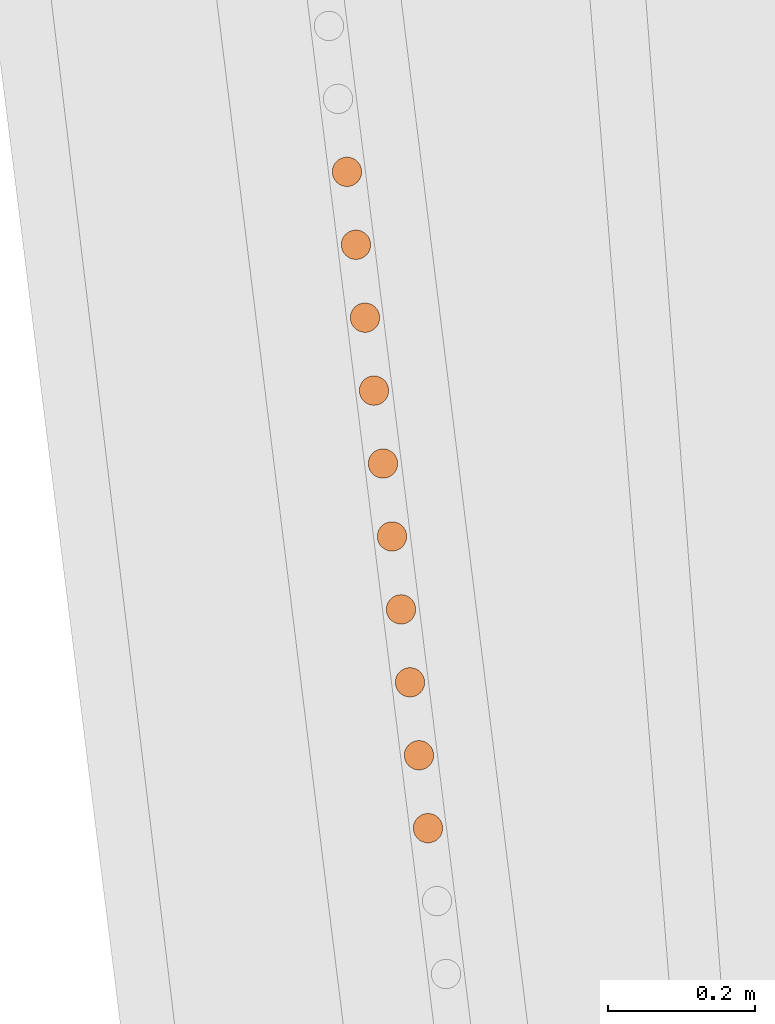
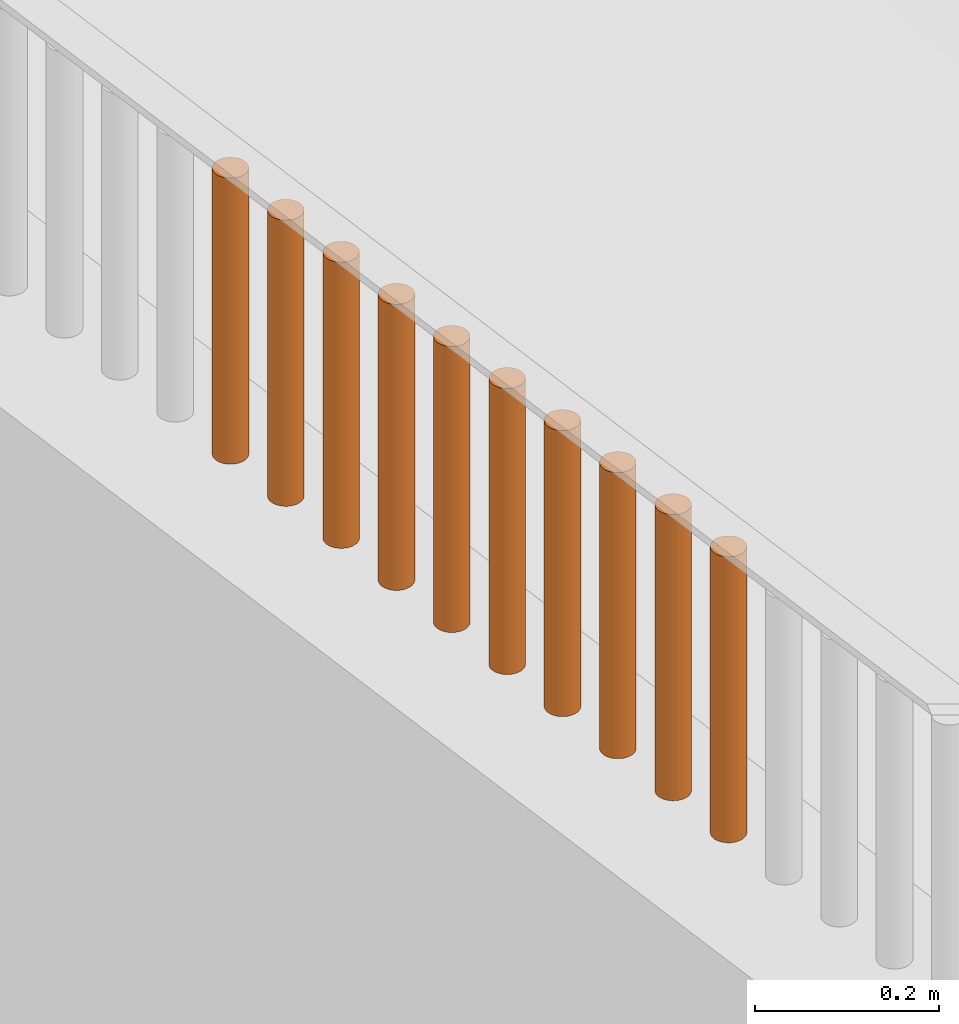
# One storey, part 116 of 1809: 10 proxies, 1 element without a shape of its own.
"""IFC2X3 building model written with IfcOpenShell, lengths in millimetres."""

from ifc_helpers import new_model, entity, si_unit, converted_unit, derived_unit, money_unit, direction, frame, origin_with_axes, place, context, subcontext, project, spatial, faceted_brep, source, transform, mapped, material, type_object, element, aggregate, save


model = new_model("IFC2X3")

# Units and contexts
model_context = context("Model", 3, precision=0.01, world=origin_with_axes(), true_north=direction((0.0, 1.0)))
body_context = subcontext(model_context, "Body", "Model", "MODEL_VIEW")
ifc_project = project(units=[si_unit("LENGTHUNIT", "METRE", prefix="MILLI"), si_unit("AREAUNIT", "SQUARE_METRE"), si_unit("VOLUMEUNIT", "CUBIC_METRE"), converted_unit("PLANEANGLEUNIT", "DEGREE", entity("IfcPlaneAngleMeasure", 0.0174532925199), si_unit("PLANEANGLEUNIT", "RADIAN"), dimensions=[0, 0, 0, 0, 0, 0, 0]), si_unit("SOLIDANGLEUNIT", "STERADIAN"), money_unit("EUR"), converted_unit("TIMEUNIT", "Year", entity("IfcTimeMeasure", 31556926.0), si_unit("TIMEUNIT", "SECOND"), dimensions=[0, 0, 1, 0, 0, 0, 0]), si_unit("MASSUNIT", "GRAM", prefix="KILO"), si_unit("THERMODYNAMICTEMPERATUREUNIT", "DEGREE_CELSIUS"), si_unit("LUMINOUSINTENSITYUNIT", "LUMEN"), si_unit("ENERGYUNIT", "JOULE", prefix="MEGA"), derived_unit("THERMALCONDUCTANCEUNIT", [(si_unit("POWERUNIT", "WATT"), 1), (si_unit("LENGTHUNIT", "METRE"), -1), (si_unit("THERMODYNAMICTEMPERATUREUNIT", "KELVIN"), -1)]), derived_unit("SPECIFICHEATCAPACITYUNIT", [(si_unit("ENERGYUNIT", "JOULE"), 1), (si_unit("MASSUNIT", "GRAM", prefix="KILO"), -1), (si_unit("THERMODYNAMICTEMPERATUREUNIT", "KELVIN"), -1)]), derived_unit("MASSDENSITYUNIT", [(si_unit("MASSUNIT", "GRAM", prefix="KILO"), 1), (si_unit("VOLUMEUNIT", "CUBIC_METRE"), -1)])], contexts=[model_context])

# Site, building, storey
site_placement = place(None, origin_with_axes())
site = spatial("IfcSite", under=ifc_project, at=site_placement, Name="Politse- ja Piirivalveameti ning Päästeameti ühishoone", CompositionType="ELEMENT")
building_placement = place(site_placement, origin_with_axes())
building = spatial("IfcBuilding", under=site, at=building_placement, Name="Politse- ja Piirivalveameti ning Päästeameti ühishoone", CompositionType="ELEMENT")
storey_placement = place(building_placement, origin_with_axes())
storey = spatial("IfcBuildingStorey", under=building, at=storey_placement, Name="Esimene korrus", CompositionType="ELEMENT", Elevation=0.0)

# Proxies
building_element_proxy_type_1 = type_object("IfcBuildingElementProxyType", Name="Railing Type", PredefinedType="NOTDEFINED")
proxy_1_placement = place(storey_placement, frame((-18956.5522504, -53688.4757966, 2100.0), z_axis=(0.0, 0.0, 1.0), x_axis=(1.0, 0.0, 0.0)))
proxy_1 = element("IfcBuildingElementProxy", 1, at=proxy_1_placement, inside=storey, type_object=building_element_proxy_type_1, Name="PIIRDEAED")
ifc_material = material(Name="ET-06_Teras - Konstruktsioon")
building_element_proxy_type_2 = type_object("IfcBuildingElementProxyType", Name="IfcBuildingElementProxy", PredefinedType="NOTDEFINED")
shared_shape_1 = source(origin_with_axes(), body_context, "Body", "Brep", [
    faceted_brep([(0.0, -20.0, 0.0), (3.47296355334, -19.6961550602, 0.0), (3.47296355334, -19.6961550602, 380.000012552), (0.0, -20.0, 380.000012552), (-3.47296355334, -19.6961550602, 0.0), (-6.84040286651, -18.7938524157, 0.0), (-10.0, -17.3205080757, 0.0), (-12.8557521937, -15.3208888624, 0.0), (-15.3208888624, -12.8557521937, 0.0), (-17.3205080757, -10.0, 0.0), (-18.7938524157, -6.84040286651, 0.0), (-19.6961550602, -3.47296355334, 0.0), (-20.0, 0.0, 0.0), (-19.6961550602, 3.47296355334, 0.0), (-18.7938524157, 6.84040286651, 0.0), (-17.3205080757, 10.0, 0.0), (-15.3208888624, 12.8557521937, 0.0), (-12.8557521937, 15.3208888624, 0.0), (-10.0, 17.3205080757, 0.0), (-6.84040286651, 18.7938524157, 0.0), (-3.47296355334, 19.6961550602, 0.0), (0.0, 20.0, 0.0), (3.47296355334, 19.6961550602, 0.0), (6.84040286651, 18.7938524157, 0.0), (10.0, 17.3205080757, 0.0), (12.8557521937, 15.3208888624, 0.0), (15.3208888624, 12.8557521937, 0.0), (17.3205080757, 10.0, 0.0), (18.7938524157, 6.84040286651, 0.0), (19.6961550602, 3.47296355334, 0.0), (20.0, 0.0, 0.0), (19.6961550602, -3.47296355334, 0.0), (18.7938524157, -6.84040286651, 0.0), (17.3205080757, -10.0, 0.0), (15.3208888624, -12.8557521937, 0.0), (12.8557521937, -15.3208888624, 0.0), (10.0, -17.3205080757, 0.0), (6.84040286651, -18.7938524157, 0.0), (6.84040286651, -18.7938524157, 380.000012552), (10.0, -17.3205080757, 380.000012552), (12.8557521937, -15.3208888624, 380.000012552), (15.3208888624, -12.8557521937, 380.000012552), (17.3205080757, -10.0, 380.000012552), (18.7938524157, -6.84040286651, 380.000012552), (19.6961550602, -3.47296355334, 380.000012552), (20.0, 0.0, 380.000012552), (19.6961550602, 3.47296355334, 380.000012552), (18.7938524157, 6.84040286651, 380.000012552), (17.3205080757, 10.0, 380.000012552), (15.3208888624, 12.8557521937, 380.000012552), (12.8557521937, 15.3208888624, 380.000012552), (10.0, 17.3205080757, 380.000012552), (6.84040286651, 18.7938524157, 380.000012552), (3.47296355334, 19.6961550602, 380.000012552), (0.0, 20.0, 380.000012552), (-3.47296355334, 19.6961550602, 380.000012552), (-6.84040286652, 18.7938524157, 380.000012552), (-10.0, 17.3205080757, 380.000012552), (-12.8557521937, 15.3208888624, 380.000012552), (-15.3208888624, 12.8557521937, 380.000012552), (-17.3205080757, 10.0, 380.000012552), (-18.7938524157, 6.84040286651, 380.000012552), (-19.6961550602, 3.47296355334, 380.000012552), (-20.0, 0.0, 380.000012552), (-19.6961550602, -3.47296355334, 380.000012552), (-18.7938524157, -6.84040286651, 380.000012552), (-17.3205080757, -10.0, 380.000012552), (-15.3208888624, -12.8557521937, 380.000012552), (-12.8557521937, -15.3208888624, 380.000012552), (-10.0, -17.3205080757, 380.000012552), (-6.84040286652, -18.7938524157, 380.000012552), (-3.47296355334, -19.6961550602, 380.000012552)], [[[0, 1, 2, 3]], [[0, 4, 5, 6, 7, 8, 9, 10, 11, 12, 13, 14, 15, 16, 17, 18, 19, 20, 21, 22, 23, 24, 25, 26, 27, 28, 29, 30, 31, 32, 33, 34, 35, 36, 37, 1]], [[1, 37, 38, 2]], [[3, 2, 38, 39, 40, 41, 42, 43, 44, 45, 46, 47, 48, 49, 50, 51, 52, 53, 54, 55, 56, 57, 58, 59, 60, 61, 62, 63, 64, 65, 66, 67, 68, 69, 70, 71]], [[4, 0, 3, 71]], [[5, 4, 71, 70]], [[6, 5, 70, 69]], [[7, 6, 69, 68]], [[8, 7, 68, 67]], [[9, 8, 67, 66]], [[10, 9, 66, 65]], [[11, 10, 65, 64]], [[12, 11, 64, 63]], [[13, 12, 63, 62]], [[14, 13, 62, 61]], [[15, 14, 61, 60]], [[16, 15, 60, 59]], [[17, 16, 59, 58]], [[18, 17, 58, 57]], [[19, 18, 57, 56]], [[20, 19, 56, 55]], [[21, 20, 55, 54]], [[22, 21, 54, 53]], [[23, 22, 53, 52]], [[24, 23, 52, 51]], [[25, 24, 51, 50]], [[26, 25, 50, 49]], [[27, 26, 49, 48]], [[28, 27, 48, 47]], [[29, 28, 47, 46]], [[30, 29, 46, 45]], [[31, 30, 45, 44]], [[32, 31, 44, 43]], [[33, 32, 43, 42]], [[34, 33, 42, 41]], [[35, 34, 41, 40]], [[36, 35, 40, 39]], [[37, 36, 39, 38]]]),
])
proxy_2_placement = place(proxy_1_placement, frame((-2211.8757927, 17085.5383817, -1.25517001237e-05), z_axis=(0.0, 0.0, 1.0), x_axis=(1.0, 0.0, 0.0)))
proxy_2 = element("IfcBuildingElementProxy", 2, at=proxy_2_placement, type_object=building_element_proxy_type_2, material=ifc_material, Name="BALUSTER - 001", context=body_context, shape_type="MappedRepresentation", body=[
    mapped(shared_shape_1, transform((0.0, 0.0, 0.0), x_axis=(0.992468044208, 0.122503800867, 0.0), y_axis=(-0.122503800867, 0.992468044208, 0.0), z_axis=(0.0, 0.0, 1.0))),
])
proxy_3_placement = place(proxy_1_placement, frame((-2285.36202218, 17680.8891703, -1.25517001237e-05), z_axis=(0.0, 0.0, 1.0), x_axis=(1.0, 0.0, 0.0)))
proxy_3 = element("IfcBuildingElementProxy", 3, at=proxy_3_placement, type_object=building_element_proxy_type_2, material=ifc_material, Name="BALUSTER - 001", context=body_context, shape_type="MappedRepresentation", body=[
    mapped(shared_shape_1, transform((0.0, 0.0, 0.0), x_axis=(0.992468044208, 0.122503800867, 0.0), y_axis=(-0.122503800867, 0.992468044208, 0.0), z_axis=(0.0, 0.0, 1.0))),
])
proxy_4_placement = place(proxy_1_placement, frame((-2297.60972709, 17780.1143017, -1.25517001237e-05), z_axis=(0.0, 0.0, 1.0), x_axis=(1.0, 0.0, 0.0)))
proxy_4 = element("IfcBuildingElementProxy", 4, at=proxy_4_placement, type_object=building_element_proxy_type_2, material=ifc_material, Name="BALUSTER - 001", context=body_context, shape_type="MappedRepresentation", body=[
    mapped(shared_shape_1, transform((0.0, 0.0, 0.0), x_axis=(0.992468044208, 0.122503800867, 0.0), y_axis=(-0.122503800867, 0.992468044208, 0.0), z_axis=(0.0, 0.0, 1.0))),
])
shared_shape_2 = source(origin_with_axes(), body_context, "Body", "Brep", [
    faceted_brep([(0.0, -20.0, 0.0), (3.47296355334, -19.6961550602, 0.0), (3.47296355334, -19.6961550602, 380.000012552), (0.0, -20.0, 380.000012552), (-3.47296355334, -19.6961550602, 0.0), (-6.84040286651, -18.7938524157, 0.0), (-10.0, -17.3205080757, 0.0), (-12.8557521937, -15.3208888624, 0.0), (-15.3208888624, -12.8557521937, 0.0), (-17.3205080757, -10.0, 0.0), (-18.7938524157, -6.84040286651, 0.0), (-19.6961550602, -3.47296355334, 0.0), (-20.0, 0.0, 0.0), (-19.6961550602, 3.47296355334, 0.0), (-18.7938524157, 6.84040286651, 0.0), (-17.3205080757, 10.0, 0.0), (-15.3208888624, 12.8557521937, 0.0), (-12.8557521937, 15.3208888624, 0.0), (-10.0, 17.3205080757, 0.0), (-6.84040286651, 18.7938524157, 0.0), (-3.47296355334, 19.6961550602, 0.0), (0.0, 20.0, 0.0), (3.47296355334, 19.6961550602, 0.0), (6.84040286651, 18.7938524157, 0.0), (10.0, 17.3205080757, 0.0), (12.8557521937, 15.3208888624, 0.0), (15.3208888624, 12.8557521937, 0.0), (17.3205080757, 10.0, 0.0), (18.7938524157, 6.84040286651, 0.0), (19.6961550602, 3.47296355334, 0.0), (20.0, 0.0, 0.0), (19.6961550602, -3.47296355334, 0.0), (18.7938524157, -6.84040286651, 0.0), (17.3205080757, -10.0, 0.0), (15.3208888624, -12.8557521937, 0.0), (12.8557521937, -15.3208888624, 0.0), (10.0, -17.3205080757, 0.0), (6.84040286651, -18.7938524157, 0.0), (6.84040286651, -18.7938524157, 380.000012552), (10.0, -17.3205080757, 380.000012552), (12.8557521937, -15.3208888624, 380.000012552), (15.3208888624, -12.8557521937, 380.000012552), (17.3205080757, -9.99999999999, 380.000012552), (18.7938524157, -6.84040286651, 380.000012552), (19.6961550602, -3.47296355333, 380.000012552), (20.0, 0.0, 380.000012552), (19.6961550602, 3.47296355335, 380.000012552), (18.7938524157, 6.84040286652, 380.000012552), (17.3205080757, 10.0, 380.000012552), (15.3208888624, 12.8557521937, 380.000012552), (12.8557521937, 15.3208888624, 380.000012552), (10.0, 17.3205080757, 380.000012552), (6.84040286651, 18.7938524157, 380.000012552), (3.47296355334, 19.6961550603, 380.000012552), (0.0, 20.0, 380.000012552), (-3.47296355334, 19.6961550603, 380.000012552), (-6.84040286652, 18.7938524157, 380.000012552), (-10.0, 17.3205080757, 380.000012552), (-12.8557521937, 15.3208888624, 380.000012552), (-15.3208888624, 12.8557521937, 380.000012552), (-17.3205080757, 10.0, 380.000012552), (-18.7938524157, 6.84040286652, 380.000012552), (-19.6961550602, 3.47296355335, 380.000012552), (-20.0, 0.0, 380.000012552), (-19.6961550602, -3.47296355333, 380.000012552), (-18.7938524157, -6.84040286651, 380.000012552), (-17.3205080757, -9.99999999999, 380.000012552), (-15.3208888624, -12.8557521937, 380.000012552), (-12.8557521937, -15.3208888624, 380.000012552), (-10.0, -17.3205080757, 380.000012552), (-6.84040286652, -18.7938524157, 380.000012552), (-3.47296355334, -19.6961550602, 380.000012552)], [[[0, 1, 2, 3]], [[0, 4, 5, 6, 7, 8, 9, 10, 11, 12, 13, 14, 15, 16, 17, 18, 19, 20, 21, 22, 23, 24, 25, 26, 27, 28, 29, 30, 31, 32, 33, 34, 35, 36, 37, 1]], [[1, 37, 38, 2]], [[3, 2, 38, 39, 40, 41, 42, 43, 44, 45, 46, 47, 48, 49, 50, 51, 52, 53, 54, 55, 56, 57, 58, 59, 60, 61, 62, 63, 64, 65, 66, 67, 68, 69, 70, 71]], [[4, 0, 3, 71]], [[5, 4, 71, 70]], [[6, 5, 70, 69]], [[7, 6, 69, 68]], [[8, 7, 68, 67]], [[9, 8, 67, 66]], [[10, 9, 66, 65]], [[11, 10, 65, 64]], [[12, 11, 64, 63]], [[13, 12, 63, 62]], [[14, 13, 62, 61]], [[15, 14, 61, 60]], [[16, 15, 60, 59]], [[17, 16, 59, 58]], [[18, 17, 58, 57]], [[19, 18, 57, 56]], [[20, 19, 56, 55]], [[21, 20, 55, 54]], [[22, 21, 54, 53]], [[23, 22, 53, 52]], [[24, 23, 52, 51]], [[25, 24, 51, 50]], [[26, 25, 50, 49]], [[27, 26, 49, 48]], [[28, 27, 48, 47]], [[29, 28, 47, 46]], [[30, 29, 46, 45]], [[31, 30, 45, 44]], [[32, 31, 44, 43]], [[33, 32, 43, 42]], [[34, 33, 42, 41]], [[35, 34, 41, 40]], [[36, 35, 40, 39]], [[37, 36, 39, 38]]]),
])
proxy_5_placement = place(proxy_1_placement, frame((-2273.11431727, 17581.6640389, -1.25517001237e-05), z_axis=(0.0, 0.0, 1.0), x_axis=(1.0, 0.0, 0.0)))
proxy_5 = element("IfcBuildingElementProxy", 5, at=proxy_5_placement, type_object=building_element_proxy_type_2, material=ifc_material, Name="BALUSTER - 001", context=body_context, shape_type="MappedRepresentation", body=[
    mapped(shared_shape_2, transform((0.0, 0.0, 0.0), x_axis=(0.992468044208, 0.122503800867, 0.0), y_axis=(-0.122503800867, 0.992468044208, 0.0), z_axis=(0.0, 0.0, 1.0))),
])
shared_shape_3 = source(origin_with_axes(), body_context, "Body", "Brep", [
    faceted_brep([(0.0, -20.0, 0.0), (3.47296355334, -19.6961550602, 0.0), (3.47296355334, -19.6961550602, 380.000012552), (0.0, -20.0, 380.000012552), (-3.47296355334, -19.6961550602, 0.0), (-6.84040286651, -18.7938524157, 0.0), (-10.0, -17.3205080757, 0.0), (-12.8557521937, -15.3208888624, 0.0), (-15.3208888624, -12.8557521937, 0.0), (-17.3205080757, -10.0, 0.0), (-18.7938524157, -6.84040286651, 0.0), (-19.6961550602, -3.47296355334, 0.0), (-20.0, 0.0, 0.0), (-19.6961550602, 3.47296355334, 0.0), (-18.7938524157, 6.84040286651, 0.0), (-17.3205080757, 10.0, 0.0), (-15.3208888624, 12.8557521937, 0.0), (-12.8557521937, 15.3208888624, 0.0), (-10.0, 17.3205080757, 0.0), (-6.84040286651, 18.7938524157, 0.0), (-3.47296355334, 19.6961550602, 0.0), (0.0, 20.0, 0.0), (3.47296355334, 19.6961550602, 0.0), (6.84040286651, 18.7938524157, 0.0), (10.0, 17.3205080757, 0.0), (12.8557521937, 15.3208888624, 0.0), (15.3208888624, 12.8557521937, 0.0), (17.3205080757, 10.0, 0.0), (18.7938524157, 6.84040286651, 0.0), (19.6961550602, 3.47296355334, 0.0), (20.0, 0.0, 0.0), (19.6961550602, -3.47296355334, 0.0), (18.7938524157, -6.84040286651, 0.0), (17.3205080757, -10.0, 0.0), (15.3208888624, -12.8557521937, 0.0), (12.8557521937, -15.3208888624, 0.0), (10.0, -17.3205080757, 0.0), (6.84040286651, -18.7938524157, 0.0), (6.84040286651, -18.7938524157, 380.000012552), (10.0, -17.3205080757, 380.000012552), (12.8557521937, -15.3208888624, 380.000012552), (15.3208888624, -12.8557521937, 380.000012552), (17.3205080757, -10.0, 380.000012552), (18.7938524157, -6.84040286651, 380.000012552), (19.6961550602, -3.47296355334, 380.000012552), (20.0, 0.0, 380.000012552), (19.6961550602, 3.47296355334, 380.000012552), (18.7938524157, 6.84040286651, 380.000012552), (17.3205080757, 10.0, 380.000012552), (15.3208888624, 12.8557521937, 380.000012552), (12.8557521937, 15.3208888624, 380.000012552), (10.0, 17.3205080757, 380.000012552), (6.84040286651, 18.7938524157, 380.000012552), (3.47296355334, 19.6961550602, 380.000012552), (0.0, 20.0, 380.000012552), (-3.47296355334, 19.6961550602, 380.000012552), (-6.84040286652, 18.7938524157, 380.000012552), (-10.0, 17.3205080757, 380.000012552), (-12.8557521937, 15.3208888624, 380.000012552), (-15.3208888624, 12.8557521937, 380.000012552), (-17.3205080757, 10.0, 380.000012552), (-18.7938524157, 6.84040286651, 380.000012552), (-19.6961550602, 3.47296355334, 380.000012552), (-20.0, 0.0, 380.000012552), (-19.6961550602, -3.47296355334, 380.000012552), (-18.7938524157, -6.84040286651, 380.000012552), (-17.3205080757, -10.0, 380.000012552), (-15.3208888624, -12.8557521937, 380.000012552), (-12.8557521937, -15.3208888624, 380.000012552), (-10.0, -17.3205080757, 380.000012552), (-6.84040286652, -18.7938524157, 380.000012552), (-3.47296355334, -19.6961550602, 380.000012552)], [[[0, 1, 2, 3]], [[0, 4, 5, 6, 7, 8, 9, 10, 11, 12, 13, 14, 15, 16, 17, 18, 19, 20, 21, 22, 23, 24, 25, 26, 27, 28, 29, 30, 31, 32, 33, 34, 35, 36, 37, 1]], [[1, 37, 38, 2]], [[3, 2, 38, 39, 40, 41, 42, 43, 44, 45, 46, 47, 48, 49, 50, 51, 52, 53, 54, 55, 56, 57, 58, 59, 60, 61, 62, 63, 64, 65, 66, 67, 68, 69, 70, 71]], [[4, 0, 3, 71]], [[5, 4, 71, 70]], [[6, 5, 70, 69]], [[7, 6, 69, 68]], [[8, 7, 68, 67]], [[9, 8, 67, 66]], [[10, 9, 66, 65]], [[11, 10, 65, 64]], [[12, 11, 64, 63]], [[13, 12, 63, 62]], [[14, 13, 62, 61]], [[15, 14, 61, 60]], [[16, 15, 60, 59]], [[17, 16, 59, 58]], [[18, 17, 58, 57]], [[19, 18, 57, 56]], [[20, 19, 56, 55]], [[21, 20, 55, 54]], [[22, 21, 54, 53]], [[23, 22, 53, 52]], [[24, 23, 52, 51]], [[25, 24, 51, 50]], [[26, 25, 50, 49]], [[27, 26, 49, 48]], [[28, 27, 48, 47]], [[29, 28, 47, 46]], [[30, 29, 46, 45]], [[31, 30, 45, 44]], [[32, 31, 44, 43]], [[33, 32, 43, 42]], [[34, 33, 42, 41]], [[35, 34, 41, 40]], [[36, 35, 40, 39]], [[37, 36, 39, 38]]]),
])
proxy_6_placement = place(proxy_1_placement, frame((-2224.12349761, 17184.7635132, -1.25517001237e-05), z_axis=(0.0, 0.0, 1.0), x_axis=(1.0, 0.0, 0.0)))
proxy_6 = element("IfcBuildingElementProxy", 6, at=proxy_6_placement, type_object=building_element_proxy_type_2, material=ifc_material, Name="BALUSTER - 001", context=body_context, shape_type="MappedRepresentation", body=[
    mapped(shared_shape_3, transform((0.0, 0.0, 0.0), x_axis=(0.992468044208, 0.122503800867, 0.0), y_axis=(-0.122503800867, 0.992468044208, 0.0), z_axis=(0.0, 0.0, 1.0))),
])
shared_shape_4 = source(origin_with_axes(), body_context, "Body", "Brep", [
    faceted_brep([(0.0, -20.0, 0.0), (3.47296355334, -19.6961550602, 0.0), (3.47296355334, -19.6961550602, 380.000012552), (0.0, -20.0, 380.000012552), (-3.47296355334, -19.6961550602, 0.0), (-6.84040286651, -18.7938524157, 0.0), (-10.0, -17.3205080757, 0.0), (-12.8557521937, -15.3208888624, 0.0), (-15.3208888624, -12.8557521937, 0.0), (-17.3205080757, -10.0, 0.0), (-18.7938524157, -6.84040286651, 0.0), (-19.6961550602, -3.47296355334, 0.0), (-20.0, 0.0, 0.0), (-19.6961550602, 3.47296355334, 0.0), (-18.7938524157, 6.84040286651, 0.0), (-17.3205080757, 10.0, 0.0), (-15.3208888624, 12.8557521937, 0.0), (-12.8557521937, 15.3208888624, 0.0), (-10.0, 17.3205080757, 0.0), (-6.84040286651, 18.7938524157, 0.0), (-3.47296355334, 19.6961550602, 0.0), (0.0, 20.0, 0.0), (3.47296355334, 19.6961550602, 0.0), (6.84040286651, 18.7938524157, 0.0), (10.0, 17.3205080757, 0.0), (12.8557521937, 15.3208888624, 0.0), (15.3208888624, 12.8557521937, 0.0), (17.3205080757, 10.0, 0.0), (18.7938524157, 6.84040286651, 0.0), (19.6961550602, 3.47296355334, 0.0), (20.0, 0.0, 0.0), (19.6961550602, -3.47296355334, 0.0), (18.7938524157, -6.84040286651, 0.0), (17.3205080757, -10.0, 0.0), (15.3208888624, -12.8557521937, 0.0), (12.8557521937, -15.3208888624, 0.0), (10.0, -17.3205080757, 0.0), (6.84040286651, -18.7938524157, 0.0), (6.84040286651, -18.7938524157, 380.000012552), (10.0, -17.3205080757, 380.000012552), (12.8557521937, -15.3208888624, 380.000012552), (15.3208888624, -12.8557521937, 380.000012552), (17.3205080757, -10.0, 380.000012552), (18.7938524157, -6.84040286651, 380.000012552), (19.6961550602, -3.47296355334, 380.000012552), (20.0, 0.0, 380.000012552), (19.6961550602, 3.47296355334, 380.000012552), (18.7938524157, 6.84040286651, 380.000012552), (17.3205080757, 10.0, 380.000012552), (15.3208888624, 12.8557521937, 380.000012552), (12.8557521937, 15.3208888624, 380.000012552), (10.0, 17.3205080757, 380.000012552), (6.84040286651, 18.7938524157, 380.000012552), (3.47296355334, 19.6961550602, 380.000012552), (0.0, 20.0, 380.000012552), (-3.47296355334, 19.6961550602, 380.000012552), (-6.84040286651, 18.7938524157, 380.000012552), (-10.0, 17.3205080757, 380.000012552), (-12.8557521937, 15.3208888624, 380.000012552), (-15.3208888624, 12.8557521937, 380.000012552), (-17.3205080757, 10.0, 380.000012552), (-18.7938524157, 6.84040286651, 380.000012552), (-19.6961550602, 3.47296355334, 380.000012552), (-20.0, 0.0, 380.000012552), (-19.6961550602, -3.47296355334, 380.000012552), (-18.7938524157, -6.84040286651, 380.000012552), (-17.3205080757, -10.0, 380.000012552), (-15.3208888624, -12.8557521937, 380.000012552), (-12.8557521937, -15.3208888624, 380.000012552), (-10.0, -17.3205080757, 380.000012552), (-6.84040286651, -18.7938524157, 380.000012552), (-3.47296355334, -19.6961550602, 380.000012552)], [[[0, 1, 2, 3]], [[0, 4, 5, 6, 7, 8, 9, 10, 11, 12, 13, 14, 15, 16, 17, 18, 19, 20, 21, 22, 23, 24, 25, 26, 27, 28, 29, 30, 31, 32, 33, 34, 35, 36, 37, 1]], [[1, 37, 38, 2]], [[3, 2, 38, 39, 40, 41, 42, 43, 44, 45, 46, 47, 48, 49, 50, 51, 52, 53, 54, 55, 56, 57, 58, 59, 60, 61, 62, 63, 64, 65, 66, 67, 68, 69, 70, 71]], [[4, 0, 3, 71]], [[5, 4, 71, 70]], [[6, 5, 70, 69]], [[7, 6, 69, 68]], [[8, 7, 68, 67]], [[9, 8, 67, 66]], [[10, 9, 66, 65]], [[11, 10, 65, 64]], [[12, 11, 64, 63]], [[13, 12, 63, 62]], [[14, 13, 62, 61]], [[15, 14, 61, 60]], [[16, 15, 60, 59]], [[17, 16, 59, 58]], [[18, 17, 58, 57]], [[19, 18, 57, 56]], [[20, 19, 56, 55]], [[21, 20, 55, 54]], [[22, 21, 54, 53]], [[23, 22, 53, 52]], [[24, 23, 52, 51]], [[25, 24, 51, 50]], [[26, 25, 50, 49]], [[27, 26, 49, 48]], [[28, 27, 48, 47]], [[29, 28, 47, 46]], [[30, 29, 46, 45]], [[31, 30, 45, 44]], [[32, 31, 44, 43]], [[33, 32, 43, 42]], [[34, 33, 42, 41]], [[35, 34, 41, 40]], [[36, 35, 40, 39]], [[37, 36, 39, 38]]]),
])
proxy_7_placement = place(proxy_1_placement, frame((-2187.38038287, 16887.0881189, -1.25517001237e-05), z_axis=(0.0, 0.0, 1.0), x_axis=(1.0, 0.0, 0.0)))
proxy_7 = element("IfcBuildingElementProxy", 7, at=proxy_7_placement, type_object=building_element_proxy_type_2, material=ifc_material, Name="BALUSTER - 001", context=body_context, shape_type="MappedRepresentation", body=[
    mapped(shared_shape_4, transform((0.0, 0.0, 0.0), x_axis=(0.992468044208, 0.122503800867, 0.0), y_axis=(-0.122503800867, 0.992468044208, 0.0), z_axis=(0.0, 0.0, 1.0))),
])
shared_shape_5 = source(origin_with_axes(), body_context, "Body", "Brep", [
    faceted_brep([(0.0, -20.0, 0.0), (3.47296355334, -19.6961550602, 0.0), (3.47296355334, -19.6961550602, 380.000012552), (0.0, -20.0, 380.000012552), (-3.47296355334, -19.6961550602, 0.0), (-6.84040286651, -18.7938524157, 0.0), (-10.0, -17.3205080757, 0.0), (-12.8557521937, -15.3208888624, 0.0), (-15.3208888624, -12.8557521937, 0.0), (-17.3205080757, -10.0, 0.0), (-18.7938524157, -6.84040286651, 0.0), (-19.6961550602, -3.47296355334, 0.0), (-20.0, 0.0, 0.0), (-19.6961550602, 3.47296355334, 0.0), (-18.7938524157, 6.84040286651, 0.0), (-17.3205080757, 10.0, 0.0), (-15.3208888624, 12.8557521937, 0.0), (-12.8557521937, 15.3208888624, 0.0), (-10.0, 17.3205080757, 0.0), (-6.84040286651, 18.7938524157, 0.0), (-3.47296355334, 19.6961550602, 0.0), (0.0, 20.0, 0.0), (3.47296355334, 19.6961550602, 0.0), (6.84040286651, 18.7938524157, 0.0), (10.0, 17.3205080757, 0.0), (12.8557521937, 15.3208888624, 0.0), (15.3208888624, 12.8557521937, 0.0), (17.3205080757, 10.0, 0.0), (18.7938524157, 6.84040286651, 0.0), (19.6961550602, 3.47296355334, 0.0), (20.0, 0.0, 0.0), (19.6961550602, -3.47296355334, 0.0), (18.7938524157, -6.84040286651, 0.0), (17.3205080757, -10.0, 0.0), (15.3208888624, -12.8557521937, 0.0), (12.8557521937, -15.3208888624, 0.0), (10.0, -17.3205080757, 0.0), (6.84040286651, -18.7938524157, 0.0), (6.84040286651, -18.7938524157, 380.000012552), (10.0, -17.3205080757, 380.000012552), (12.8557521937, -15.3208888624, 380.000012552), (15.3208888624, -12.8557521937, 380.000012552), (17.3205080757, -10.0, 380.000012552), (18.7938524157, -6.84040286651, 380.000012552), (19.6961550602, -3.47296355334, 380.000012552), (20.0, 0.0, 380.000012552), (19.6961550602, 3.47296355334, 380.000012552), (18.7938524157, 6.84040286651, 380.000012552), (17.3205080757, 10.0, 380.000012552), (15.3208888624, 12.8557521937, 380.000012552), (12.8557521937, 15.3208888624, 380.000012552), (10.0, 17.3205080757, 380.000012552), (6.84040286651, 18.7938524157, 380.000012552), (3.47296355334, 19.6961550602, 380.000012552), (0.0, 20.0, 380.000012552), (-3.47296355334, 19.6961550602, 380.000012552), (-6.84040286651, 18.7938524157, 380.000012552), (-10.0, 17.3205080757, 380.000012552), (-12.8557521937, 15.3208888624, 380.000012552), (-15.3208888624, 12.8557521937, 380.000012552), (-17.3205080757, 10.0, 380.000012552), (-18.7938524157, 6.84040286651, 380.000012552), (-19.6961550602, 3.47296355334, 380.000012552), (-20.0, 0.0, 380.000012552), (-19.6961550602, -3.47296355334, 380.000012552), (-18.7938524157, -6.84040286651, 380.000012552), (-17.3205080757, -10.0, 380.000012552), (-15.3208888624, -12.8557521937, 380.000012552), (-12.8557521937, -15.3208888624, 380.000012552), (-10.0, -17.3205080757, 380.000012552), (-6.84040286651, -18.7938524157, 380.000012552), (-3.47296355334, -19.6961550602, 380.000012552)], [[[0, 1, 2, 3]], [[0, 4, 5, 6, 7, 8, 9, 10, 11, 12, 13, 14, 15, 16, 17, 18, 19, 20, 21, 22, 23, 24, 25, 26, 27, 28, 29, 30, 31, 32, 33, 34, 35, 36, 37, 1]], [[1, 37, 38, 2]], [[3, 2, 38, 39, 40, 41, 42, 43, 44, 45, 46, 47, 48, 49, 50, 51, 52, 53, 54, 55, 56, 57, 58, 59, 60, 61, 62, 63, 64, 65, 66, 67, 68, 69, 70, 71]], [[4, 0, 3, 71]], [[5, 4, 71, 70]], [[6, 5, 70, 69]], [[7, 6, 69, 68]], [[8, 7, 68, 67]], [[9, 8, 67, 66]], [[10, 9, 66, 65]], [[11, 10, 65, 64]], [[12, 11, 64, 63]], [[13, 12, 63, 62]], [[14, 13, 62, 61]], [[15, 14, 61, 60]], [[16, 15, 60, 59]], [[17, 16, 59, 58]], [[18, 17, 58, 57]], [[19, 18, 57, 56]], [[20, 19, 56, 55]], [[21, 20, 55, 54]], [[22, 21, 54, 53]], [[23, 22, 53, 52]], [[24, 23, 52, 51]], [[25, 24, 51, 50]], [[26, 25, 50, 49]], [[27, 26, 49, 48]], [[28, 27, 48, 47]], [[29, 28, 47, 46]], [[30, 29, 46, 45]], [[31, 30, 45, 44]], [[32, 31, 44, 43]], [[33, 32, 43, 42]], [[34, 33, 42, 41]], [[35, 34, 41, 40]], [[36, 35, 40, 39]], [[37, 36, 39, 38]]]),
])
proxy_8_placement = place(proxy_1_placement, frame((-2236.37120253, 17283.9886446, -1.25517001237e-05), z_axis=(0.0, 0.0, 1.0), x_axis=(1.0, 0.0, 0.0)))
proxy_8 = element("IfcBuildingElementProxy", 8, at=proxy_8_placement, type_object=building_element_proxy_type_2, material=ifc_material, Name="BALUSTER - 001", context=body_context, shape_type="MappedRepresentation", body=[
    mapped(shared_shape_5, transform((0.0, 0.0, 0.0), x_axis=(0.992468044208, 0.122503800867, 0.0), y_axis=(-0.122503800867, 0.992468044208, 0.0), z_axis=(0.0, 0.0, 1.0))),
])
proxy_9_placement = place(proxy_1_placement, frame((-2260.86661235, 17482.4389074, -1.25517001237e-05), z_axis=(0.0, 0.0, 1.0), x_axis=(1.0, 0.0, 0.0)))
proxy_9 = element("IfcBuildingElementProxy", 9, at=proxy_9_placement, type_object=building_element_proxy_type_2, material=ifc_material, Name="BALUSTER - 001", context=body_context, shape_type="MappedRepresentation", body=[
    mapped(shared_shape_5, transform((0.0, 0.0, 0.0), x_axis=(0.992468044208, 0.122503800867, 0.0), y_axis=(-0.122503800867, 0.992468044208, 0.0), z_axis=(0.0, 0.0, 1.0))),
])
shared_shape_6 = source(origin_with_axes(), body_context, "Body", "Brep", [
    faceted_brep([(0.0, -20.0, 0.0), (3.47296355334, -19.6961550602, 0.0), (3.47296355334, -19.6961550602, 380.000012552), (0.0, -20.0, 380.000012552), (-3.47296355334, -19.6961550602, 0.0), (-6.84040286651, -18.7938524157, 0.0), (-10.0, -17.3205080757, 0.0), (-12.8557521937, -15.3208888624, 0.0), (-15.3208888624, -12.8557521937, 0.0), (-17.3205080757, -10.0, 0.0), (-18.7938524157, -6.84040286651, 0.0), (-19.6961550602, -3.47296355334, 0.0), (-20.0, 0.0, 0.0), (-19.6961550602, 3.47296355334, 0.0), (-18.7938524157, 6.84040286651, 0.0), (-17.3205080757, 10.0, 0.0), (-15.3208888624, 12.8557521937, 0.0), (-12.8557521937, 15.3208888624, 0.0), (-10.0, 17.3205080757, 0.0), (-6.84040286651, 18.7938524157, 0.0), (-3.47296355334, 19.6961550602, 0.0), (0.0, 20.0, 0.0), (3.47296355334, 19.6961550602, 0.0), (6.84040286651, 18.7938524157, 0.0), (10.0, 17.3205080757, 0.0), (12.8557521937, 15.3208888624, 0.0), (15.3208888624, 12.8557521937, 0.0), (17.3205080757, 10.0, 0.0), (18.7938524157, 6.84040286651, 0.0), (19.6961550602, 3.47296355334, 0.0), (20.0, 0.0, 0.0), (19.6961550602, -3.47296355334, 0.0), (18.7938524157, -6.84040286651, 0.0), (17.3205080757, -10.0, 0.0), (15.3208888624, -12.8557521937, 0.0), (12.8557521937, -15.3208888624, 0.0), (10.0, -17.3205080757, 0.0), (6.84040286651, -18.7938524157, 0.0), (6.84040286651, -18.7938524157, 380.000012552), (10.0, -17.3205080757, 380.000012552), (12.8557521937, -15.3208888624, 380.000012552), (15.3208888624, -12.8557521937, 380.000012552), (17.3205080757, -10.0, 380.000012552), (18.7938524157, -6.84040286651, 380.000012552), (19.6961550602, -3.47296355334, 380.000012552), (20.0, 0.0, 380.000012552), (19.6961550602, 3.47296355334, 380.000012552), (18.7938524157, 6.84040286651, 380.000012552), (17.3205080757, 10.0, 380.000012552), (15.3208888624, 12.8557521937, 380.000012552), (12.8557521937, 15.3208888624, 380.000012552), (10.0, 17.3205080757, 380.000012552), (6.84040286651, 18.7938524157, 380.000012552), (3.47296355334, 19.6961550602, 380.000012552), (0.0, 20.0, 380.000012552), (-3.47296355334, 19.6961550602, 380.000012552), (-6.84040286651, 18.7938524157, 380.000012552), (-10.0, 17.3205080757, 380.000012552), (-12.8557521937, 15.3208888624, 380.000012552), (-15.3208888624, 12.8557521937, 380.000012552), (-17.3205080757, 10.0, 380.000012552), (-18.7938524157, 6.84040286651, 380.000012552), (-19.6961550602, 3.47296355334, 380.000012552), (-20.0, 0.0, 380.000012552), (-19.6961550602, -3.47296355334, 380.000012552), (-18.7938524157, -6.84040286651, 380.000012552), (-17.3205080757, -10.0, 380.000012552), (-15.3208888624, -12.8557521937, 380.000012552), (-12.8557521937, -15.3208888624, 380.000012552), (-10.0, -17.3205080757, 380.000012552), (-6.84040286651, -18.7938524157, 380.000012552), (-3.47296355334, -19.6961550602, 380.000012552)], [[[0, 1, 2, 3]], [[0, 4, 5, 6, 7, 8, 9, 10, 11, 12, 13, 14, 15, 16, 17, 18, 19, 20, 21, 22, 23, 24, 25, 26, 27, 28, 29, 30, 31, 32, 33, 34, 35, 36, 37, 1]], [[1, 37, 38, 2]], [[3, 2, 38, 39, 40, 41, 42, 43, 44, 45, 46, 47, 48, 49, 50, 51, 52, 53, 54, 55, 56, 57, 58, 59, 60, 61, 62, 63, 64, 65, 66, 67, 68, 69, 70, 71]], [[4, 0, 3, 71]], [[5, 4, 71, 70]], [[6, 5, 70, 69]], [[7, 6, 69, 68]], [[8, 7, 68, 67]], [[9, 8, 67, 66]], [[10, 9, 66, 65]], [[11, 10, 65, 64]], [[12, 11, 64, 63]], [[13, 12, 63, 62]], [[14, 13, 62, 61]], [[15, 14, 61, 60]], [[16, 15, 60, 59]], [[17, 16, 59, 58]], [[18, 17, 58, 57]], [[19, 18, 57, 56]], [[20, 19, 56, 55]], [[21, 20, 55, 54]], [[22, 21, 54, 53]], [[23, 22, 53, 52]], [[24, 23, 52, 51]], [[25, 24, 51, 50]], [[26, 25, 50, 49]], [[27, 26, 49, 48]], [[28, 27, 48, 47]], [[29, 28, 47, 46]], [[30, 29, 46, 45]], [[31, 30, 45, 44]], [[32, 31, 44, 43]], [[33, 32, 43, 42]], [[34, 33, 42, 41]], [[35, 34, 41, 40]], [[36, 35, 40, 39]], [[37, 36, 39, 38]]]),
])
proxy_10_placement = place(proxy_1_placement, frame((-2199.62808779, 16986.3132503, -1.25517001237e-05), z_axis=(0.0, 0.0, 1.0), x_axis=(1.0, 0.0, 0.0)))
proxy_10 = element("IfcBuildingElementProxy", 10, at=proxy_10_placement, type_object=building_element_proxy_type_2, material=ifc_material, Name="BALUSTER - 001", context=body_context, shape_type="MappedRepresentation", body=[
    mapped(shared_shape_6, transform((0.0, 0.0, 0.0), x_axis=(0.992468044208, 0.122503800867, 0.0), y_axis=(-0.122503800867, 0.992468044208, 0.0), z_axis=(0.0, 0.0, 1.0))),
])
proxy_11_placement = place(proxy_1_placement, frame((-2248.61890744, 17383.213776, -1.25517001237e-05), z_axis=(0.0, 0.0, 1.0), x_axis=(1.0, 0.0, 0.0)))
proxy_11 = element("IfcBuildingElementProxy", 11, at=proxy_11_placement, type_object=building_element_proxy_type_2, material=ifc_material, Name="BALUSTER - 001", context=body_context, shape_type="MappedRepresentation", body=[
    mapped(shared_shape_6, transform((0.0, 0.0, 0.0), x_axis=(0.992468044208, 0.122503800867, 0.0), y_axis=(-0.122503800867, 0.992468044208, 0.0), z_axis=(0.0, 0.0, 1.0))),
])
aggregate(proxy_1, [proxy_7, proxy_10, proxy_2, proxy_6, proxy_8, proxy_11, proxy_9, proxy_5, proxy_3, proxy_4])

save(model, "model.ifc")
